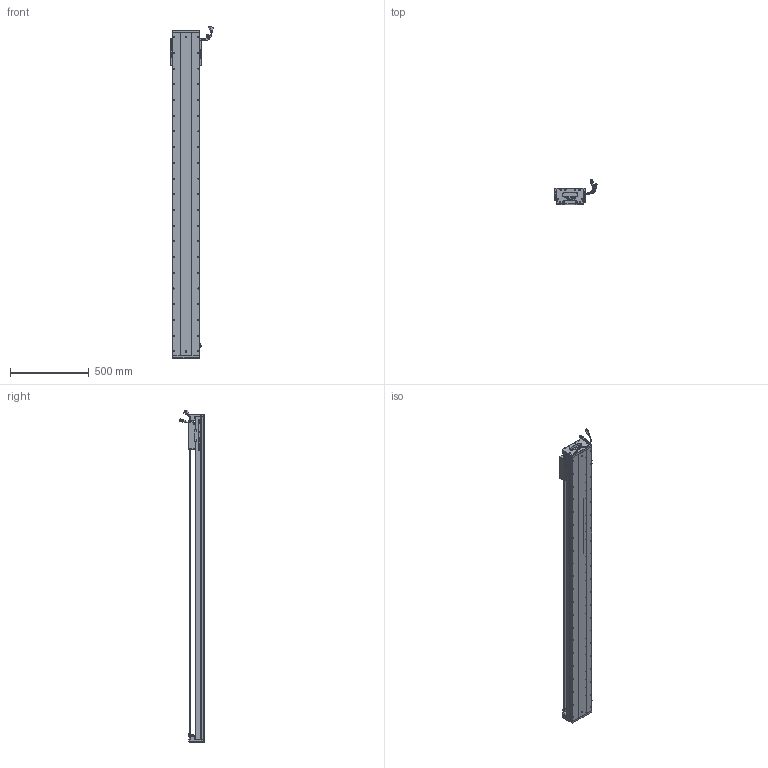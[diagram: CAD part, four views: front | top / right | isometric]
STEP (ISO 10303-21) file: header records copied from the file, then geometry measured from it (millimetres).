
FILE_DESCRIPTION (( 'STEP AP203' ), '1' );
FILE_NAME ('Z2-RY170D-1-L500-B-K.SLDASM_1800.step', '2021-05-17T09:09:05', ( '盈信电脑' ), ( '东莞市道滘镇水果街19号' ), 'SwSTEP 2.0', 'SolidWorks 2016', '' );
FILE_SCHEMA (( 'CONFIG_CONTROL_DESIGN' ));
Length unit declared in the file: millimetre
Products named in the file (36): 覜茼ん672; SCREW-M1.6; SCREW-M1.6-3; SCALE-Part-1; 170-Z-臏賑輸盄裔(21遴); SCALE; 080黍杅芛假蚾釱21遴; Z2-RY170臏賑輸(21遴); 140雄赽晤鎢ん堤盄; SCREW-M1.6-1; SEAL-Part-1; Z2-RY170-L500耀郪菁釱_1800; Z-RY170詩湍奻揤裔; LABEL; COVER; HARNESS-Part-1; Z-170詩湍傷裔啣; LABEL-Part-1; COVER-Part-1; HOLDER0; 榋妏寠巭燃_暯_M2_2; SCALE-Part-2; SHIELDPLATE; Z-RY170詩湍狟揤裔; HARNESS; SEAL; SCREW-M1.7; Z2-RY170D-1-L500-B-K.SLDASM_1800; Z2-RY170-L500詩湍145mm遵_1800; PBU_SHEET; SCREW-M1.6-2; PSLH080_PSLF2; RY170直线电机感应器672光电感应片; SCREW-M1.7-1; HARNESS-Part-2; 140蚥薯蝶輸
Assembly tree (41 placements, depth 4):
  Z2-RY170D-1-L500-B-K.SLDASM_1800
    Z2-RY170-L500耀郪菁釱_1800
    RY170直线电机感应器672光电感应片
    Z2-RY170臏賑輸(21遴)
    覜茼ん672  x3
    PSLH080_PSLF2
      SCALE
        SCALE-Part-1
        SCALE-Part-2
      HARNESS
        HARNESS-Part-1
        HARNESS-Part-2
      LABEL
        LABEL-Part-1
      COVER
        COVER-Part-1
      SEAL
        SEAL-Part-1
      榋妏寠巭燃_暯_M2_2
      SHIELDPLATE
      SCREW-M1.7
      SCREW-M1.7-1
      PBU_SHEET
      SCREW-M1.6
      SCREW-M1.6-1
      SCREW-M1.6-2
      SCREW-M1.6-3
      HOLDER0
    080黍杅芛假蚾釱21遴
    Z2-RY170-L500詩湍145mm遵_1800
    Z-170詩湍傷裔啣  x2
    Z-RY170詩湍奻揤裔  x2
    Z-RY170詩湍狟揤裔  x2
    140蚥薯蝶輸  x2
    170-Z-臏賑輸盄裔(21遴)
    140雄赽晤鎢ん堤盄
Bounding box: 275.34 x 158.11 x 2113.72 mm (x, y, z)
Volume: 10598071.5 mm3; surface area: 2619759.6 mm2
Topology: 36 solids, 36 shells, 3734 faces, 10273 edges, 6433 vertices
Faces by surface type: cylinder 1836, plane 1268, cone 508, torus 69, bspline 53
Entity records: 115769 total; most frequent: CARTESIAN_POINT 31806, ORIENTED_EDGE 17134, DIRECTION 16143, EDGE_CURVE 8567, AXIS2_PLACEMENT_3D 5936, VERTEX_POINT 5551, LINE 4271, VECTOR 4271
